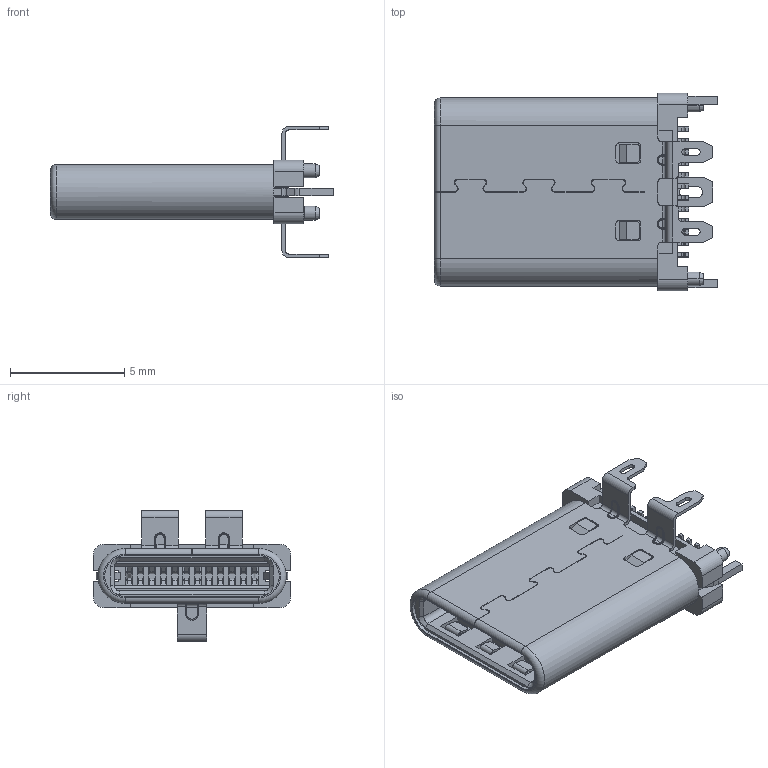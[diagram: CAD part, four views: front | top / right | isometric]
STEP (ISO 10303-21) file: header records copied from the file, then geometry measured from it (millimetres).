
FILE_DESCRIPTION((''),'2;1');
FILE_NAME('RLY-GT-TPC0023_USB_3_1_TYPE-C_2','2023-07-25T',('Administrator'),(''),'PRO/ENGINEER BY PARAMETRIC TECHNOLOGY CORPORATION, 2015240','PRO/ENGINEER BY PARAMETRIC TECHNOLOGY CORPORATION, 2015240','');
FILE_SCHEMA(('CONFIG_CONTROL_DESIGN','SHAPE_APPEARANCE_LAYERS_GROUPS'));
Length unit declared in the file: millimetre
Products named in the file (1): RLY-GT-TPC0023_USB_3_1_TYPE-C_2
Bounding box: 12.41 x 8.66 x 5.74 mm (x, y, z)
Volume: 134.8 mm3; surface area: 1348.7 mm2
Topology: 1 solids, 23 shells, 2240 faces, 6893 edges, 4496 vertices
Faces by surface type: plane 1498, cylinder 602, bspline 93, torus 29, cone 18
Entity records: 96870 total; most frequent: CARTESIAN_POINT 17243, ORIENTED_EDGE 13586, DIRECTION 12307, EDGE_CURVE 6893, VECTOR 5251, LINE 5251, VERTEX_POINT 4496, PRESENTATION_STYLE_ASSIGNMENT 3707
